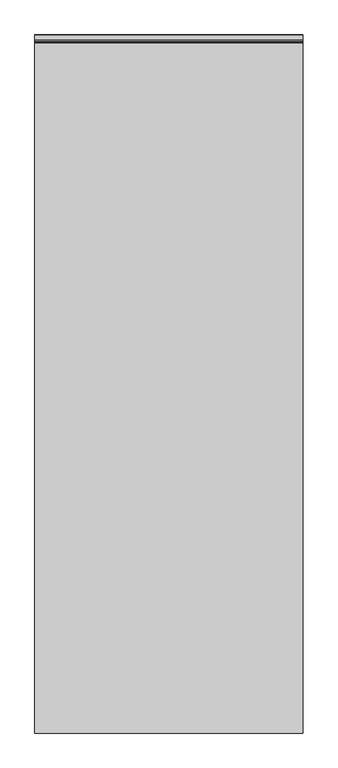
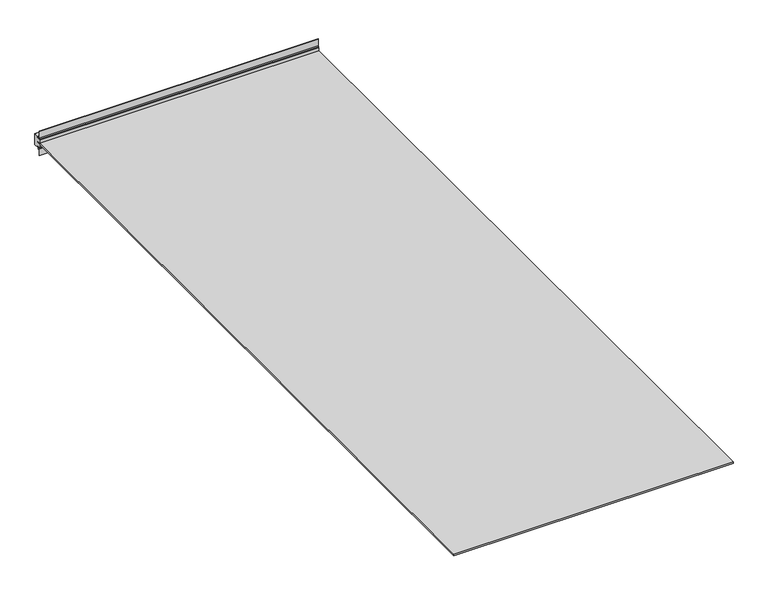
"""IFC4 building model written with IfcOpenShell, lengths in millimetres: proxy geometry, Specialy Equipment_Blindspace_TrackTrim-Click-to-Recess-Curtain-Tracks-Straight-Track : 2400 mm x 2600 mm."""

from ifc_helpers import new_model, si_unit, point, frame, frame_2d, origin, place, context, project, spatial, polyline, circle_curve, trimmed, segment, composite_curve, outline, extrude, source, transform, mapped, element, save


def specialty_equipment_4cefd5af(model_context):
    return source(origin(), model_context, "Body", "SweptSolid", [
        extrude(outline(composite_curve([segment(trimmed(circle_curve(frame_2d((1299.4988864, -64.9988864)), 0.5011136), [point((1300.0, -64.9988864))], [point((1299.4988864, -65.5))], False, "CARTESIAN"), True, "CONTINUOUS"), segment(polyline([(1299.4988864, -65.5), (1279.5663509, -65.5)]), True, "CONTINUOUS"), segment(trimmed(circle_curve(frame_2d((1275.9465479, -66.4521158)), 3.7429265), [point((1279.5663509, -65.5))], [point((1274.5, -69.9042163))], False, "CARTESIAN"), True, "CONTINUOUS"), segment(polyline([(1274.5, -69.9042163), (1274.5, -90.0), (1272.4387528, -90.0), (1272.4387528, -65.6247497), (1270.0, -62.6937639), (1273.6097179, -62.6937639), (1295.5252948, -60.8778609), (1295.5252948, -58.8933333), (1270.0, -58.8933333), (1270.0, -48.0), (1286.4878459, -48.0), (1286.4878459, -42.0), (1270.0, -42.0), (1270.0, -31.1066667), (1295.5252948, -31.1066667), (1295.5252948, -29.1221391), (1273.6097179, -27.3062361), (1270.0, -27.3062361), (1272.4387528, -24.3752503), (1272.4387528, 0.0), (1274.5, 0.0), (1274.5, -20.0957837)]), True, "CONTINUOUS"), segment(trimmed(circle_curve(frame_2d((1275.9465479, -23.5478842)), 3.7429265), [point((1274.5, -20.0957837))], [point((1279.5663509, -24.5))], False, "CARTESIAN"), True, "CONTINUOUS"), segment(polyline([(1279.5663509, -24.5), (1299.4988864, -24.5)]), True, "CONTINUOUS"), segment(trimmed(circle_curve(frame_2d((1299.4988864, -25.0011136)), 0.5011136), [point((1299.4988864, -24.5))], [point((1300.0, -25.0011136))], False, "CARTESIAN"), True, "CONTINUOUS"), segment(polyline([(1300.0, -25.0011136), (1300.0, -64.9988864)]), True, "CONTINUOUS")], self_intersect=False)), frame((-500.0, 0.0, 0.0), z_axis=(1.0, 0.0, 0.0), x_axis=(0.0, 1.0, 0.0)), (0.0, 0.0, 1.0), 1000.0),
        extrude(outline(polyline([(500.0, 1286.4878459), (500.0, -1300.0), (-500.0, -1300.0), (-500.0, 1286.4878459), (500.0, 1286.4878459)])), frame((0.0, 0.0, -48.0), z_axis=(0.0, 0.0, 1.0), x_axis=(1.0, 0.0, 0.0)), (0.0, 0.0, 1.0), 6.0),
    ])


if __name__ == "__main__":
    model = new_model("IFC4")
    model_context = context("Model", 3, world=origin())
    ifc_project = project(units=[si_unit("LENGTHUNIT", "METRE", prefix="MILLI")], contexts=[model_context])
    site = spatial("IfcSite", under=ifc_project)
    building = spatial("IfcBuilding", under=site)
    placement = place(None, origin())
    specialty_equipment_shape = specialty_equipment_4cefd5af(model_context)
    element("IfcBuildingElementProxy", 1, Name="Specialy Equipment_Blindspace_TrackTrim-Click-to-Recess-Curtain-Tracks-Straight-Track : 2400 mm x 2600 mm", ObjectType="Specialy Equipment_Blindspace_TrackTrim-Click-to-Recess-Curtain-Tracks-Straight-Track : 2400 mm x 2600 mm", at=placement, inside=building, context=model_context, shape_type="MappedRepresentation", body=[
        mapped(specialty_equipment_shape, transform((0.0, 0.0, 0.0), x_axis=(1.0, 0.0, 0.0), y_axis=(0.0, 1.0, 0.0), z_axis=(0.0, 0.0, 1.0))),
    ])
    save(model, "model.ifc")
